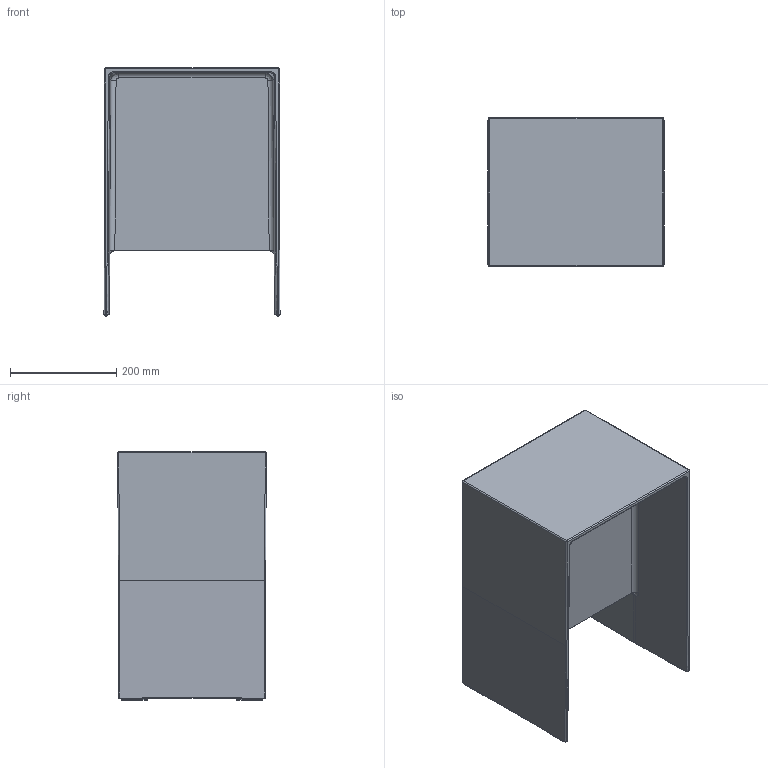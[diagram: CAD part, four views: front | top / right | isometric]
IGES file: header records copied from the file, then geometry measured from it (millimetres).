
Global section: file name: C:\Users\gio\Documents\LAVORI\Kartell\COMPLETI\MAX BEAM\Max Beam.igs; native system: Rhinoceros ( Oct 30 2009 ); preprocessor: Trout Lake IGES 012 Oct 30 2009; author: Studio Palomba; organization: Kartell; date: 140227.073541; units: millimetre
Bounding box: 331.96 x 279.98 x 468.11 mm (x, y, z)
Surface area: 904904.3 mm2 (no closed solid volume)
Topology: 0 solids, 0 shells, 308 faces, 2076 edges, 2028 vertices
Faces by surface type: bspline 308
